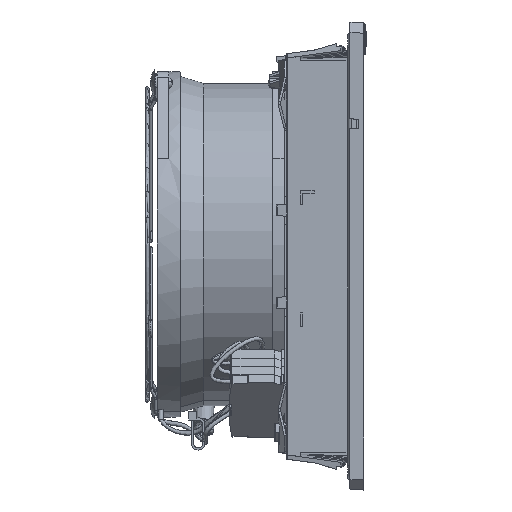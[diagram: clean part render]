
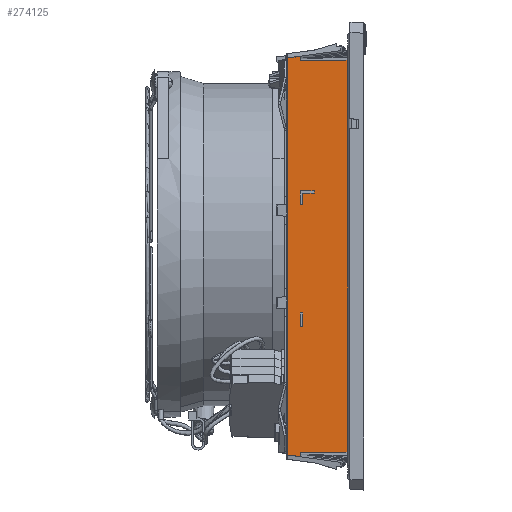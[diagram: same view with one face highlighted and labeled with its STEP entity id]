
A CAD part, left-side view. The second image highlights one B-rep face of the part: STEP entity #274125.
In plain terms, the highlighted planar face has unit normal (-1, 0.009, 0).
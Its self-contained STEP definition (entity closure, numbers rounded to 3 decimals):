
#2205 = LINE ( 'NONE', #198616, #112372 ) ;
#2680 = CARTESIAN_POINT ( 'NONE',  ( -87.317, 23.499, -24.5 ) ) ;
#4329 = CARTESIAN_POINT ( 'NONE',  ( -87.308, 24.5, -85. ) ) ;
#5208 = CARTESIAN_POINT ( 'NONE',  ( -87.462, 6.849, 89.021 ) ) ;
#5456 = ORIENTED_EDGE ( 'NONE', *, *, #203769, .T. ) ;
#7089 = LINE ( 'NONE', #191585, #182776 ) ;
#8285 = CARTESIAN_POINT ( 'NONE',  ( -87.462, 6.849, -89.021 ) ) ;
#9358 = CARTESIAN_POINT ( 'NONE',  ( -87.26, 30.004, 86.052 ) ) ;
#10505 = ORIENTED_EDGE ( 'NONE', *, *, #244834, .T. ) ;
#10886 = CARTESIAN_POINT ( 'NONE',  ( -87.36, 18.499, 27.5 ) ) ;
#10986 = VECTOR ( 'NONE', #185416, 1000. ) ;
#11676 = CARTESIAN_POINT ( 'NONE',  ( -87.308, 24.499, -30.5 ) ) ;
#11796 = EDGE_CURVE ( 'NONE', #64741, #36713, #73413, .T. ) ;
#13374 = VECTOR ( 'NONE', #227247, 1000. ) ;
#13911 = CARTESIAN_POINT ( 'NONE',  ( -87.308, 24.499, 22.5 ) ) ;
#17525 = VERTEX_POINT ( 'NONE', #161646 ) ;
#20111 = VERTEX_POINT ( 'NONE', #192358 ) ;
#20185 = DIRECTION ( 'NONE',  ( 0.009, 1., 0. ) ) ;
#25748 = EDGE_CURVE ( 'NONE', #178822, #209064, #234350, .T. ) ;
#26635 = VECTOR ( 'NONE', #136153, 1000. ) ;
#26939 = CARTESIAN_POINT ( 'NONE',  ( -87.5, 2.5, 85. ) ) ;
#32614 = CARTESIAN_POINT ( 'NONE',  ( -87.5, 2.5, 87.5 ) ) ;
#36713 = VERTEX_POINT ( 'NONE', #216976 ) ;
#37305 = LINE ( 'NONE', #101935, #147569 ) ;
#38707 = LINE ( 'NONE', #75144, #266134 ) ;
#42424 = ORIENTED_EDGE ( 'NONE', *, *, #128334, .T. ) ;
#44493 = DIRECTION ( 'NONE',  ( -0.009, -1., 0. ) ) ;
#47405 = ORIENTED_EDGE ( 'NONE', *, *, #183461, .T. ) ;
#50792 = ORIENTED_EDGE ( 'NONE', *, *, #92029, .T. ) ;
#53861 = VERTEX_POINT ( 'NONE', #252069 ) ;
#54725 = DIRECTION ( 'NONE',  ( 0., 0., 1. ) ) ;
#55471 = EDGE_LOOP ( 'NONE', ( #199397, #175822, #42424, #50792 ) ) ;
#57181 = CARTESIAN_POINT ( 'NONE',  ( -87.5, 2.5, -85. ) ) ;
#58546 = VECTOR ( 'NONE', #237001, 1000. ) ;
#64741 = VERTEX_POINT ( 'NONE', #148904 ) ;
#66994 = VECTOR ( 'NONE', #20185, 1000. ) ;
#67890 = LINE ( 'NONE', #10886, #133351 ) ;
#68851 = VERTEX_POINT ( 'NONE', #81434 ) ;
#73413 = LINE ( 'NONE', #179573, #131988 ) ;
#73441 = EDGE_LOOP ( 'NONE', ( #276899, #47405, #179178, #10505, #196478, #275253, #112526, #97028 ) ) ;
#74632 = VERTEX_POINT ( 'NONE', #13911 ) ;
#75144 = CARTESIAN_POINT ( 'NONE',  ( -87.317, 23.499, -24.5 ) ) ;
#76683 = VECTOR ( 'NONE', #54725, 1000. ) ;
#76800 = EDGE_CURVE ( 'NONE', #20111, #81199, #133157, .T. ) ;
#80807 = LINE ( 'NONE', #152124, #66994 ) ;
#81199 = VERTEX_POINT ( 'NONE', #161836 ) ;
#81434 = CARTESIAN_POINT ( 'NONE',  ( -87.317, 23.499, 22.5 ) ) ;
#81804 = DIRECTION ( 'NONE',  ( 0.009, 1., 0. ) ) ;
#87918 = CARTESIAN_POINT ( 'NONE',  ( -87.308, 24.5, -86.844 ) ) ;
#89661 = VECTOR ( 'NONE', #132661, 1000. ) ;
#89916 = ORIENTED_EDGE ( 'NONE', *, *, #225227, .T. ) ;
#92029 = EDGE_CURVE ( 'NONE', #53861, #209064, #148317, .T. ) ;
#95638 = CARTESIAN_POINT ( 'NONE',  ( -87.317, 23.499, 27.5 ) ) ;
#97028 = ORIENTED_EDGE ( 'NONE', *, *, #76800, .F. ) ;
#97048 = DIRECTION ( 'NONE',  ( 0.009, 1., 0. ) ) ;
#99794 = ORIENTED_EDGE ( 'NONE', *, *, #107049, .F. ) ;
#101935 = CARTESIAN_POINT ( 'NONE',  ( -87.317, 23.499, 28. ) ) ;
#102996 = CARTESIAN_POINT ( 'NONE',  ( -87.308, 24.499, 28.5 ) ) ;
#103551 = DIRECTION ( 'NONE',  ( -1., 0.009, 0. ) ) ;
#104229 = EDGE_LOOP ( 'NONE', ( #118549, #99794, #249035, #115552, #89916, #5456 ) ) ;
#107049 = EDGE_CURVE ( 'NONE', #64741, #121029, #80807, .T. ) ;
#108554 = FACE_BOUND ( 'NONE', #55471, .T. ) ;
#109363 = VECTOR ( 'NONE', #264206, 1000. ) ;
#112372 = VECTOR ( 'NONE', #44493, 1000. ) ;
#112526 = ORIENTED_EDGE ( 'NONE', *, *, #189260, .T. ) ;
#115552 = ORIENTED_EDGE ( 'NONE', *, *, #261578, .T. ) ;
#116215 = LINE ( 'NONE', #87918, #109363 ) ;
#118370 = CARTESIAN_POINT ( 'NONE',  ( -87.26, 30.004, -86.052 ) ) ;
#118549 = ORIENTED_EDGE ( 'NONE', *, *, #267680, .F. ) ;
#119713 = AXIS2_PLACEMENT_3D ( 'NONE', #235547, #103551, #257717 ) ;
#121029 = VERTEX_POINT ( 'NONE', #102996 ) ;
#123624 = LINE ( 'NONE', #26939, #13374 ) ;
#126292 = VECTOR ( 'NONE', #263242, 1000. ) ;
#128334 = EDGE_CURVE ( 'NONE', #142922, #53861, #38707, .T. ) ;
#131216 = CARTESIAN_POINT ( 'NONE',  ( -87.308, 24.5, 86.844 ) ) ;
#131988 = VECTOR ( 'NONE', #267260, 1000. ) ;
#132661 = DIRECTION ( 'NONE',  ( 0.009, 1., 0. ) ) ;
#133157 = LINE ( 'NONE', #131216, #126292 ) ;
#133351 = VECTOR ( 'NONE', #164941, 1000. ) ;
#136153 = DIRECTION ( 'NONE',  ( -0.009, -0.992, 0.127 ) ) ;
#142922 = VERTEX_POINT ( 'NONE', #2680 ) ;
#143384 = VECTOR ( 'NONE', #249017, 1000. ) ;
#144739 = EDGE_CURVE ( 'NONE', #190134, #20111, #202431, .T. ) ;
#145349 = LINE ( 'NONE', #185125, #152250 ) ;
#147569 = VECTOR ( 'NONE', #258960, 1000. ) ;
#148317 = LINE ( 'NONE', #264691, #89661 ) ;
#148904 = CARTESIAN_POINT ( 'NONE',  ( -87.36, 18.499, 28.5 ) ) ;
#152124 = CARTESIAN_POINT ( 'NONE',  ( -87.36, 18.499, 28.5 ) ) ;
#152250 = VECTOR ( 'NONE', #207347, 1000. ) ;
#155204 = CARTESIAN_POINT ( 'NONE',  ( -87.5, 2.5, 85. ) ) ;
#161600 = CARTESIAN_POINT ( 'NONE',  ( -87.317, 23.499, 22.5 ) ) ;
#161646 = CARTESIAN_POINT ( 'NONE',  ( -87.308, 24.5, -86.758 ) ) ;
#161836 = CARTESIAN_POINT ( 'NONE',  ( -87.308, 24.5, 85. ) ) ;
#164941 = DIRECTION ( 'NONE',  ( 0.009, 1., 0. ) ) ;
#167197 = FACE_BOUND ( 'NONE', #104229, .T. ) ;
#175822 = ORIENTED_EDGE ( 'NONE', *, *, #245977, .T. ) ;
#178822 = VERTEX_POINT ( 'NONE', #181007 ) ;
#179015 = EDGE_CURVE ( 'NONE', #240115, #285817, #7089, .T. ) ;
#179178 = ORIENTED_EDGE ( 'NONE', *, *, #266356, .F. ) ;
#179573 = CARTESIAN_POINT ( 'NONE',  ( -87.36, 18.499, 28.5 ) ) ;
#181007 = CARTESIAN_POINT ( 'NONE',  ( -87.308, 24.499, -24.5 ) ) ;
#182776 = VECTOR ( 'NONE', #81804, 1000. ) ;
#183461 = EDGE_CURVE ( 'NONE', #190134, #266880, #215831, .T. ) ;
#185125 = CARTESIAN_POINT ( 'NONE',  ( -87.308, 24.499, 28. ) ) ;
#185416 = DIRECTION ( 'NONE',  ( 0.009, 0.992, 0.127 ) ) ;
#189260 = EDGE_CURVE ( 'NONE', #221530, #81199, #123624, .T. ) ;
#190134 = VERTEX_POINT ( 'NONE', #9358 ) ;
#190665 = VERTEX_POINT ( 'NONE', #95638 ) ;
#191585 = CARTESIAN_POINT ( 'NONE',  ( -87.5, 2.5, -85. ) ) ;
#192358 = CARTESIAN_POINT ( 'NONE',  ( -87.308, 24.5, 86.758 ) ) ;
#193845 = LINE ( 'NONE', #32614, #76683 ) ;
#196478 = ORIENTED_EDGE ( 'NONE', *, *, #179015, .F. ) ;
#198616 = CARTESIAN_POINT ( 'NONE',  ( -87.308, 24.499, -24.5 ) ) ;
#199397 = ORIENTED_EDGE ( 'NONE', *, *, #25748, .F. ) ;
#202431 = LINE ( 'NONE', #5208, #26635 ) ;
#203769 = EDGE_CURVE ( 'NONE', #68851, #74632, #229545, .T. ) ;
#207135 = DIRECTION ( 'NONE',  ( 0., 0., -1. ) ) ;
#207347 = DIRECTION ( 'NONE',  ( 0., 0., -1. ) ) ;
#209064 = VERTEX_POINT ( 'NONE', #11676 ) ;
#214898 = CARTESIAN_POINT ( 'NONE',  ( -87.308, 24.499, -24.5 ) ) ;
#215831 = LINE ( 'NONE', #226881, #143384 ) ;
#216976 = CARTESIAN_POINT ( 'NONE',  ( -87.36, 18.499, 27.5 ) ) ;
#221530 = VERTEX_POINT ( 'NONE', #155204 ) ;
#225227 = EDGE_CURVE ( 'NONE', #190665, #68851, #37305, .T. ) ;
#226881 = CARTESIAN_POINT ( 'NONE',  ( -87.26, 30.004, 87.5 ) ) ;
#227247 = DIRECTION ( 'NONE',  ( 0.009, 1., 0. ) ) ;
#229545 = LINE ( 'NONE', #161600, #281251 ) ;
#234350 = LINE ( 'NONE', #214898, #58546 ) ;
#235547 = CARTESIAN_POINT ( 'NONE',  ( -87.5, 2.5, 87.5 ) ) ;
#237001 = DIRECTION ( 'NONE',  ( 0., 0., -1. ) ) ;
#240115 = VERTEX_POINT ( 'NONE', #57181 ) ;
#244834 = EDGE_CURVE ( 'NONE', #17525, #285817, #116215, .T. ) ;
#245977 = EDGE_CURVE ( 'NONE', #178822, #142922, #2205, .T. ) ;
#249017 = DIRECTION ( 'NONE',  ( 0., 0., -1. ) ) ;
#249035 = ORIENTED_EDGE ( 'NONE', *, *, #11796, .T. ) ;
#252069 = CARTESIAN_POINT ( 'NONE',  ( -87.317, 23.499, -30.5 ) ) ;
#255099 = EDGE_CURVE ( 'NONE', #240115, #221530, #193845, .T. ) ;
#257717 = DIRECTION ( 'NONE',  ( -0.009, -1., 0. ) ) ;
#258960 = DIRECTION ( 'NONE',  ( 0., 0., -1. ) ) ;
#259177 = LINE ( 'NONE', #8285, #10986 ) ;
#261578 = EDGE_CURVE ( 'NONE', #36713, #190665, #67890, .T. ) ;
#263242 = DIRECTION ( 'NONE',  ( 0., 0., -1. ) ) ;
#264206 = DIRECTION ( 'NONE',  ( 0., 0., 1. ) ) ;
#264691 = CARTESIAN_POINT ( 'NONE',  ( -87.317, 23.499, -30.5 ) ) ;
#266134 = VECTOR ( 'NONE', #207135, 1000. ) ;
#266356 = EDGE_CURVE ( 'NONE', #17525, #266880, #259177, .T. ) ;
#266880 = VERTEX_POINT ( 'NONE', #118370 ) ;
#267260 = DIRECTION ( 'NONE',  ( 0., 0., -1. ) ) ;
#267680 = EDGE_CURVE ( 'NONE', #121029, #74632, #145349, .T. ) ;
#274125 = ADVANCED_FACE ( 'NONE', ( #167197, #284423, #108554 ), #277976, .T. ) ;
#275253 = ORIENTED_EDGE ( 'NONE', *, *, #255099, .T. ) ;
#276899 = ORIENTED_EDGE ( 'NONE', *, *, #144739, .F. ) ;
#277976 = PLANE ( 'NONE',  #119713 ) ;
#281251 = VECTOR ( 'NONE', #97048, 1000. ) ;
#284423 = FACE_OUTER_BOUND ( 'NONE', #73441, .T. ) ;
#285817 = VERTEX_POINT ( 'NONE', #4329 ) ;
